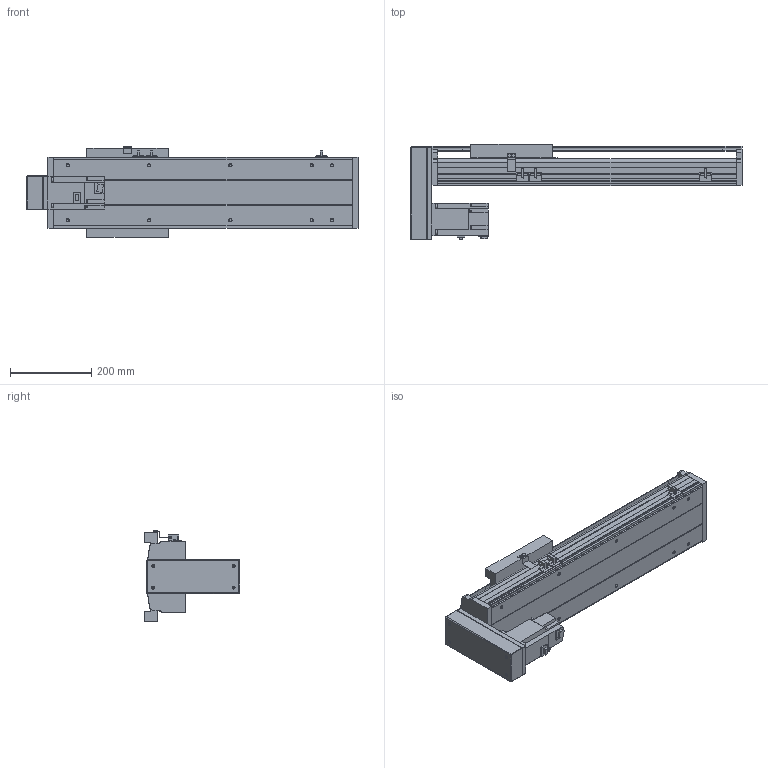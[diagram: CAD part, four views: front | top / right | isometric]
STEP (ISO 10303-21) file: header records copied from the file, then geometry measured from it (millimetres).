
FILE_DESCRIPTION(/* description */ ('STEP AP214'),/* implementation_level */ '2;1');
FILE_NAME(/* name */ 'PSS200-L10-S400-BM-T75-C1-N(0)',/* time_stamp */ '2022-06-06T04:44:31+02:00',/* author */ ('License CC BY-ND 4.0'),/* organization */ ('CADENAS'),/* preprocessor_version */ 'ST-DEVELOPER v18.102',/* originating_system */ 'PARTsolutions',/* authorisation */ ' ');
FILE_SCHEMA (('AUTOMOTIVE_DESIGN {1 0 10303 214 3 1 1}'));
Length unit declared in the file: millimetre
Products named in the file (8): PSS200-L10-S400-BM-T75-C1-N(0); PSS200-S400-BM-N_S; T75-p1; PSS200BM-N_h; PSS200-N_sensor; PSS200-BM-C1-N_sl; PSS200-N_Q; PSS200-S400-BM-C1-N_body
Assembly tree (9 placements, depth 2):
  PSS200-L10-S400-BM-T75-C1-N(0)
    PSS200-S400-BM-N_S
    T75-p1
    PSS200BM-N_h
    PSS200-N_sensor  x3
    PSS200-BM-C1-N_sl
    PSS200-N_Q
    PSS200-S400-BM-C1-N_body
Bounding box: 816.85 x 234.45 x 223.86 mm (x, y, z)
Volume: 6578945.9 mm3; surface area: 1399040 mm2
Topology: 9 solids, 9 shells, 594 faces, 1589 edges, 1054 vertices
Faces by surface type: plane 452, cylinder 120, cone 18, sphere 4
Full cylindrical faces by diameter (mm): 4 x2, 4.5 x4, 6 x7, 6.647 x14, 7.4 x4, 8 x8, 10 x6, 25 x1, 40 x1, 67 x1
Entity records: 16528 total; most frequent: CARTESIAN_POINT 2869, DIRECTION 2727, ORIENTED_EDGE 2710, EDGE_CURVE 1355, LINE 1071, VECTOR 1071, VERTEX_POINT 938, AXIS2_PLACEMENT_3D 828
